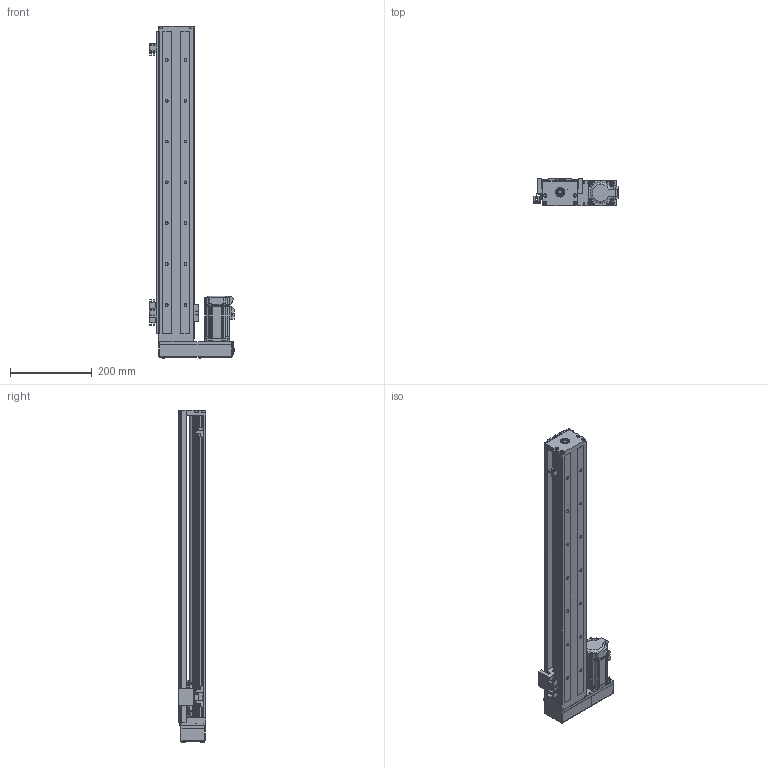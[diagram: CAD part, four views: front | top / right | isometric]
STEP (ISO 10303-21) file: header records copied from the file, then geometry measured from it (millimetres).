
FILE_DESCRIPTION (( 'STEP AP214' ), '1' );
FILE_NAME ('SFKK86-740S1-HR0C.STEP', '2022-05-05T13:49:42', ( '微软用户' ), ( '微软中国' ), 'SwSTEP 2.0', 'SolidWorks 2018', '' );
FILE_SCHEMA (( 'AUTOMOTIVE_DESIGN' ));
Length unit declared in the file: millimetre
Products named in the file (13): SFKK86-H0-侂狟400W耜蚾; SX674嫖萇羲壽; SFKK86-S1; 蚐郲; SFKK86-CU_740; SFKK86-LR 憤癹寢耋_740; 开关固定座：KK-674S2-F; SFKK86-H0_KKR86-ZT-P-740; 带盖挡光片：KK-86-S2-D1; hexagon socket countersunk head screws gb_GB_FASTENER_SCREWS_HSCHS M4X10-N; SFKK86-FS; SFKK86-740S1-HR0C; 极限轨道与开关固定座组合_740
Assembly tree (18 placements, depth 3):
  SFKK86-740S1-HR0C
    SFKK86-H0_KKR86-ZT-P-740
    SFKK86-S1
    极限轨道与开关固定座组合_740
      SFKK86-LR 憤癹寢耋_740
      开关固定座：KK-674S2-F  x2
    SX674嫖萇羲壽  x3
    蚐郲
    SFKK86-FS
    带盖挡光片：KK-86-S2-D1
    SFKK86-CU_740
    hexagon socket countersunk head screws gb_GB_FASTENER_SCREWS_HSCHS M4X10-N  x4
    SFKK86-H0-侂狟400W耜蚾
Bounding box: 208.5 x 68 x 813.2 mm (x, y, z)
Volume: 1762103.8 mm3; surface area: 716370.9 mm2
Topology: 31 solids, 80 shells, 3568 faces, 9569 edges, 6140 vertices
Faces by surface type: plane 1567, cylinder 1474, cone 305, bspline 102, torus 87, sphere 33
Entity records: 144365 total; most frequent: CARTESIAN_POINT 30822, DIRECTION 17930, ORIENTED_EDGE 17378, EDGE_CURVE 8972, AXIS2_PLACEMENT_3D 6409, VERTEX_POINT 5847, VECTOR 5112, LINE 5112
